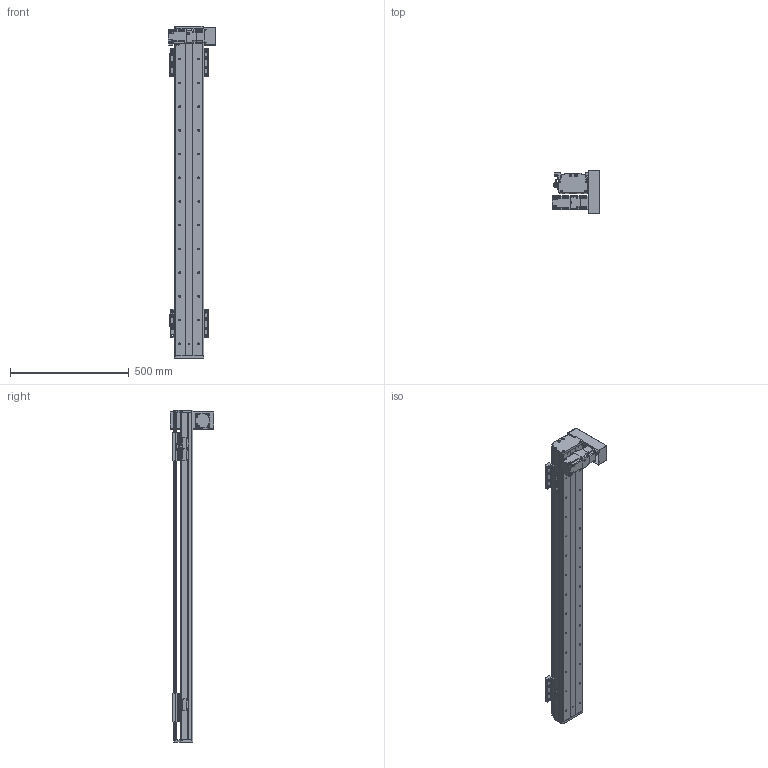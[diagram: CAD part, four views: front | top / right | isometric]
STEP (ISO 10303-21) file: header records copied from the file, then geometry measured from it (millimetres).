
FILE_DESCRIPTION(/* description */ (''),/* implementation_level */ '2;1');
FILE_NAME(/* name */ 'C:\Users\PC\Desktop\3D도면\STEP\새 폴더\DSB125-DR2G-W1100-L.stp',/* time_stamp */ '2018-06-21T14:58:57+09:00',/* author */ ('PC'),/* organization */ (''),/* preprocessor_version */ 'ST-DEVELOPER v16.5',/* originating_system */ 'Autodesk Inventor 2017',/* authorisation */ '');
FILE_SCHEMA (('AUTOMOTIVE_DESIGN { 1 0 10303 214 3 1 1 }'));
Length unit declared in the file: millimetre
Products named in the file (12): DSB125-DL2G-W1100-R_MIR; DSB125-BASE_MIR; DSB125-FRONT COVER_MIR; DSB125-REAR COVER_MIR; DSB125-UP COVER_MIR; hg-kr23__MIR; ab0601-p0401200402_MIR; 13-BELT COVER_MIR; DSR125-SENSOR DOG_MIR; pm-y65_step_MIR; SENSOR BRACKET(EE-SX674A)_MIR; DSB125-TABLE(MSB15S)_MIR
Assembly tree (16 placements, depth 2):
  DSB125-DL2G-W1100-R_MIR
    DSB125-BASE_MIR
    DSB125-FRONT COVER_MIR
    DSB125-REAR COVER_MIR
    DSB125-UP COVER_MIR
    hg-kr23__MIR
    ab0601-p0401200402_MIR
    13-BELT COVER_MIR
    DSR125-SENSOR DOG_MIR
    pm-y65_step_MIR  x3
    SENSOR BRACKET(EE-SX674A)_MIR  x3
    DSB125-TABLE(MSB15S)_MIR  x2
Bounding box: 202.1 x 182 x 1400 mm (x, y, z)
Volume: 5099917.5 mm3; surface area: 1468497 mm2
Topology: 17 solids, 17 shells, 1667 faces, 4520 edges, 2978 vertices
Faces by surface type: plane 903, cylinder 634, cone 118, sphere 8, torus 4
Full cylindrical faces by diameter (mm): 2.459 x20, 3.242 x16, 3.5 x6, 4 x1, 4.134 x16, 4.2 x4, 4.3 x1, 4.5 x50, 4.917 x20, 5 x22, 5.3 x1, 5.5 x4, 5.6 x8, 5.8 x4, 5.9 x8, 6 x4, 6.6 x22, 6.647 x28, 7.5 x32, 8.5 x8, 8.7 x1, 11 x22, 14 x1, 16 x2, 17 x1, 20 x1, 47 x1, 50 x3
Entity records: 36137 total; most frequent: CARTESIAN_POINT 6507, DIRECTION 6138, ORIENTED_EDGE 5490, EDGE_CURVE 2745, AXIS2_PLACEMENT_3D 2257, VERTEX_POINT 1954, EDGE_LOOP 1685, LINE 1624
